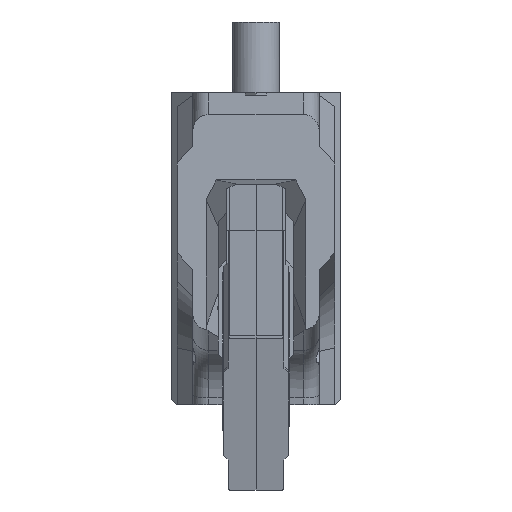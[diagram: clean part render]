
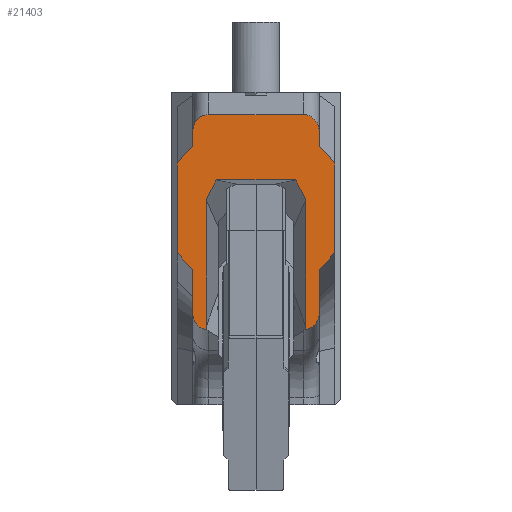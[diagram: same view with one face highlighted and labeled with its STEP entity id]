
A CAD part, front view. The second image highlights one B-rep face of the part: STEP entity #21403.
In plain terms, the highlighted planar face has unit normal (0, -1, 0).
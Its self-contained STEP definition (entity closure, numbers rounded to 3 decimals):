
#773=B_SPLINE_CURVE_WITH_KNOTS('',3,(#35521,#35522,#35523,#35524),
 .UNSPECIFIED.,.F.,.U.,(4,4),(0.,1.),.UNSPECIFIED.);
#783=B_SPLINE_CURVE_WITH_KNOTS('',3,(#35850,#35851,#35852,#35853),
 .UNSPECIFIED.,.F.,.U.,(4,4),(0.,1.),.UNSPECIFIED.);
#1422=PLANE('',#22528);
#3363=VECTOR('',#25436,1.);
#3370=VECTOR('',#25460,1.);
#3421=VECTOR('',#25581,1.);
#3422=VECTOR('',#25582,1.);
#3423=VECTOR('',#25583,1.);
#3424=VECTOR('',#25584,1.);
#3425=VECTOR('',#25585,1.);
#3426=VECTOR('',#25593,1.);
#3427=VECTOR('',#25594,1.);
#3428=VECTOR('',#25595,1.);
#3429=VECTOR('',#25598,1.);
#3430=VECTOR('',#25601,1.);
#3431=VECTOR('',#25602,1.);
#3432=VECTOR('',#25603,1.);
#5567=LINE('',#35377,#3363);
#5574=LINE('',#35443,#3370);
#5625=LINE('',#35757,#3421);
#5626=LINE('',#35779,#3422);
#5627=LINE('',#35801,#3423);
#5628=LINE('',#35823,#3424);
#5629=LINE('',#35895,#3425);
#5630=LINE('',#35900,#3426);
#5631=LINE('',#35902,#3427);
#5632=LINE('',#35904,#3428);
#5633=LINE('',#35909,#3429);
#5634=LINE('',#35914,#3430);
#5635=LINE('',#35916,#3431);
#5636=LINE('',#35918,#3432);
#7681=VERTEX_POINT('',#35376);
#7682=VERTEX_POINT('',#35378);
#7693=VERTEX_POINT('',#35442);
#7694=VERTEX_POINT('',#35444);
#7704=VERTEX_POINT('',#35520);
#7705=VERTEX_POINT('',#35525);
#7733=VERTEX_POINT('',#35758);
#7734=VERTEX_POINT('',#35780);
#7735=VERTEX_POINT('',#35802);
#7736=VERTEX_POINT('',#35824);
#7737=VERTEX_POINT('',#35849);
#7738=VERTEX_POINT('',#35854);
#7739=VERTEX_POINT('',#35901);
#7740=VERTEX_POINT('',#35903);
#7741=VERTEX_POINT('',#35905);
#7742=VERTEX_POINT('',#35906);
#7743=VERTEX_POINT('',#35908);
#7744=VERTEX_POINT('',#35910);
#7745=VERTEX_POINT('',#35912);
#7746=VERTEX_POINT('',#35913);
#7747=VERTEX_POINT('',#35915);
#7748=VERTEX_POINT('',#35917);
#8437=ELLIPSE('',#22527,0.502,0.476);
#8438=ELLIPSE('',#22529,0.502,0.476);
#8439=ELLIPSE('',#22530,0.502,0.476);
#8440=ELLIPSE('',#22531,0.502,0.476);
#10654=EDGE_CURVE('',#7681,#7682,#5567,.T.);
#10669=EDGE_CURVE('',#7694,#7693,#5574,.T.);
#10683=EDGE_CURVE('',#7705,#7704,#773,.T.);
#10749=EDGE_CURVE('',#7733,#7705,#5625,.T.);
#10751=EDGE_CURVE('',#7734,#7733,#5626,.T.);
#10753=EDGE_CURVE('',#7735,#7734,#5627,.T.);
#10755=EDGE_CURVE('',#7736,#7735,#5628,.T.);
#10758=EDGE_CURVE('',#7738,#7737,#783,.T.);
#10760=EDGE_CURVE('',#7737,#7736,#5629,.T.);
#10762=EDGE_CURVE('',#7694,#7704,#8437,.T.);
#10763=EDGE_CURVE('',#7739,#7693,#5630,.T.);
#10764=EDGE_CURVE('',#7739,#7740,#5631,.T.);
#10765=EDGE_CURVE('',#7741,#7740,#5632,.T.);
#10766=EDGE_CURVE('',#7741,#7742,#5574,.T.);
#10767=EDGE_CURVE('',#7743,#7742,#8438,.T.);
#10768=EDGE_CURVE('',#7744,#7743,#5633,.T.);
#10769=EDGE_CURVE('',#7745,#7744,#8439,.T.);
#10770=EDGE_CURVE('',#7746,#7745,#5567,.T.);
#10771=EDGE_CURVE('',#7747,#7746,#5634,.T.);
#10772=EDGE_CURVE('',#7748,#7747,#5635,.T.);
#10773=EDGE_CURVE('',#7682,#7748,#5636,.T.);
#10774=EDGE_CURVE('',#7738,#7681,#8440,.T.);
#16099=ORIENTED_EDGE('',*,*,#10683,.T.);
#16100=ORIENTED_EDGE('',*,*,#10762,.F.);
#16101=ORIENTED_EDGE('',*,*,#10669,.T.);
#16102=ORIENTED_EDGE('',*,*,#10763,.F.);
#16103=ORIENTED_EDGE('',*,*,#10764,.T.);
#16104=ORIENTED_EDGE('',*,*,#10765,.F.);
#16105=ORIENTED_EDGE('',*,*,#10766,.T.);
#16106=ORIENTED_EDGE('',*,*,#10767,.F.);
#16107=ORIENTED_EDGE('',*,*,#10768,.F.);
#16108=ORIENTED_EDGE('',*,*,#10769,.F.);
#16109=ORIENTED_EDGE('',*,*,#10770,.F.);
#16110=ORIENTED_EDGE('',*,*,#10771,.F.);
#16111=ORIENTED_EDGE('',*,*,#10772,.F.);
#16112=ORIENTED_EDGE('',*,*,#10773,.F.);
#16113=ORIENTED_EDGE('',*,*,#10654,.F.);
#16114=ORIENTED_EDGE('',*,*,#10774,.F.);
#16115=ORIENTED_EDGE('',*,*,#10758,.T.);
#16116=ORIENTED_EDGE('',*,*,#10760,.T.);
#16117=ORIENTED_EDGE('',*,*,#10755,.T.);
#16118=ORIENTED_EDGE('',*,*,#10753,.T.);
#16119=ORIENTED_EDGE('',*,*,#10751,.T.);
#16120=ORIENTED_EDGE('',*,*,#10749,.T.);
#19046=EDGE_LOOP('',(#16099,#16100,#16101,#16102,#16103,#16104,#16105,#16106,
#16107,#16108,#16109,#16110,#16111,#16112,#16113,#16114,#16115,#16116,#16117,
#16118,#16119,#16120));
#20255=FACE_BOUND('',#19046,.T.);
#21403=ADVANCED_FACE('',(#20255),#1422,.T.);
#22527=AXIS2_PLACEMENT_3D('',#35898,#25590,#25591);
#22528=AXIS2_PLACEMENT_3D('',#35899,#25592,$);
#22529=AXIS2_PLACEMENT_3D('',#35907,#25596,#25597);
#22530=AXIS2_PLACEMENT_3D('',#35911,#25599,#25600);
#22531=AXIS2_PLACEMENT_3D('',#35919,#25604,#25605);
#25436=DIRECTION('',(0.,0.,1.));
#25460=DIRECTION('',(0.,0.,1.));
#25581=DIRECTION('',(0.,0.,-1.));
#25582=DIRECTION('',(0.471,0.,-0.882));
#25583=DIRECTION('',(1.,0.,0.));
#25584=DIRECTION('',(0.471,0.,0.882));
#25585=DIRECTION('',(0.,0.,1.));
#25590=DIRECTION('',(0.,1.,0.));
#25591=DIRECTION('',(0.,0.,-0.502));
#25592=DIRECTION('',(0.,-1.,0.));
#25593=DIRECTION('',(-0.685,0.,-0.729));
#25594=DIRECTION('',(0.,0.,1.));
#25595=DIRECTION('',(0.685,0.,-0.729));
#25596=DIRECTION('',(0.,1.,0.));
#25597=DIRECTION('',(0.,0.,0.502));
#25598=DIRECTION('',(1.,0.,0.));
#25599=DIRECTION('',(0.,1.,0.));
#25600=DIRECTION('',(0.,0.,0.502));
#25601=DIRECTION('',(0.685,0.,0.729));
#25602=DIRECTION('',(0.,0.,1.));
#25603=DIRECTION('',(-0.685,0.,0.729));
#25604=DIRECTION('',(0.,1.,0.));
#25605=DIRECTION('',(0.,0.,-0.502));
#35376=CARTESIAN_POINT('',(-1.905,-7.779,-0.371));
#35377=CARTESIAN_POINT('',(-1.905,-7.779,-0.873));
#35378=CARTESIAN_POINT('',(-1.905,-7.779,0.947));
#35442=CARTESIAN_POINT('',(1.905,-7.779,0.947));
#35443=CARTESIAN_POINT('',(1.905,-7.779,-0.873));
#35444=CARTESIAN_POINT('',(1.905,-7.779,-0.371));
#35520=CARTESIAN_POINT('',(1.48,-7.779,-0.87));
#35521=CARTESIAN_POINT('',(1.508,-7.779,-0.794));
#35522=CARTESIAN_POINT('',(1.393,-7.779,-1.111));
#35523=CARTESIAN_POINT('',(1.277,-7.779,-1.429));
#35524=CARTESIAN_POINT('',(1.162,-7.779,-1.746));
#35525=CARTESIAN_POINT('',(1.508,-7.779,-0.794));
#35757=CARTESIAN_POINT('',(1.508,-7.779,3.056));
#35758=CARTESIAN_POINT('',(1.508,-7.779,3.056));
#35779=CARTESIAN_POINT('',(1.191,-7.779,3.651));
#35780=CARTESIAN_POINT('',(1.191,-7.779,3.651));
#35801=CARTESIAN_POINT('',(-1.191,-7.779,3.651));
#35802=CARTESIAN_POINT('',(-1.191,-7.779,3.651));
#35823=CARTESIAN_POINT('',(-1.508,-7.779,3.056));
#35824=CARTESIAN_POINT('',(-1.508,-7.779,3.056));
#35849=CARTESIAN_POINT('',(-1.508,-7.779,-0.794));
#35850=CARTESIAN_POINT('',(-1.162,-7.779,-1.746));
#35851=CARTESIAN_POINT('',(-1.277,-7.779,-1.429));
#35852=CARTESIAN_POINT('',(-1.393,-7.779,-1.111));
#35853=CARTESIAN_POINT('',(-1.508,-7.779,-0.794));
#35854=CARTESIAN_POINT('',(-1.48,-7.779,-0.87));
#35895=CARTESIAN_POINT('',(-1.508,-7.779,-0.794));
#35898=CARTESIAN_POINT('',(1.429,-7.779,-0.371));
#35899=CARTESIAN_POINT('',(-2.381,-7.779,2.807));
#35900=CARTESIAN_POINT('',(1.25,-7.779,0.25));
#35901=CARTESIAN_POINT('',(2.381,-7.779,1.454));
#35902=CARTESIAN_POINT('',(2.381,-7.779,0.947));
#35903=CARTESIAN_POINT('',(2.381,-7.779,4.161));
#35904=CARTESIAN_POINT('',(1.262,-7.779,5.352));
#35905=CARTESIAN_POINT('',(1.905,-7.779,4.668));
#35906=CARTESIAN_POINT('',(1.905,-7.779,5.119));
#35907=CARTESIAN_POINT('',(1.429,-7.779,5.119));
#35908=CARTESIAN_POINT('',(1.429,-7.779,5.62));
#35909=CARTESIAN_POINT('',(-1.905,-7.779,5.62));
#35910=CARTESIAN_POINT('',(-1.429,-7.779,5.62));
#35911=CARTESIAN_POINT('',(-1.429,-7.779,5.119));
#35912=CARTESIAN_POINT('',(-1.905,-7.779,5.119));
#35913=CARTESIAN_POINT('',(-1.905,-7.779,4.668));
#35914=CARTESIAN_POINT('',(-2.379,-7.779,4.164));
#35915=CARTESIAN_POINT('',(-2.381,-7.779,4.161));
#35916=CARTESIAN_POINT('',(-2.381,-7.779,0.947));
#35917=CARTESIAN_POINT('',(-2.381,-7.779,1.454));
#35918=CARTESIAN_POINT('',(-2.366,-7.779,1.438));
#35919=CARTESIAN_POINT('',(-1.429,-7.779,-0.371));
